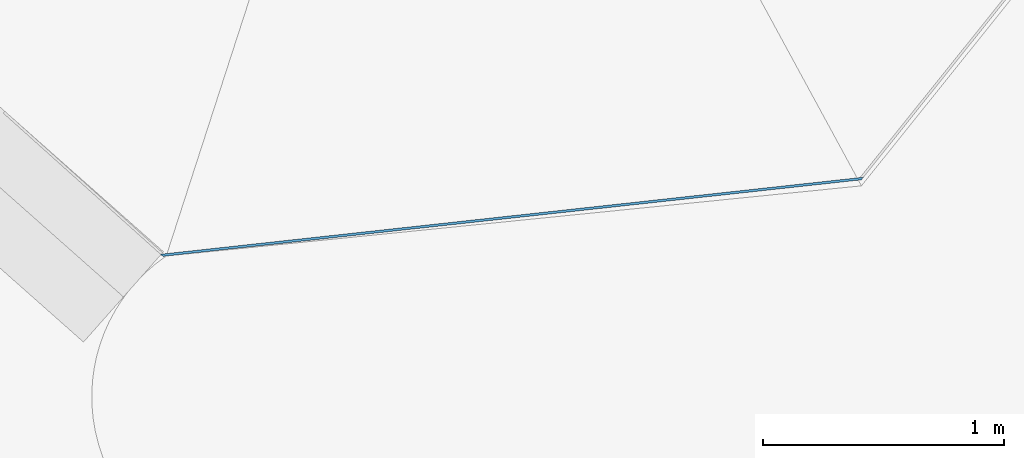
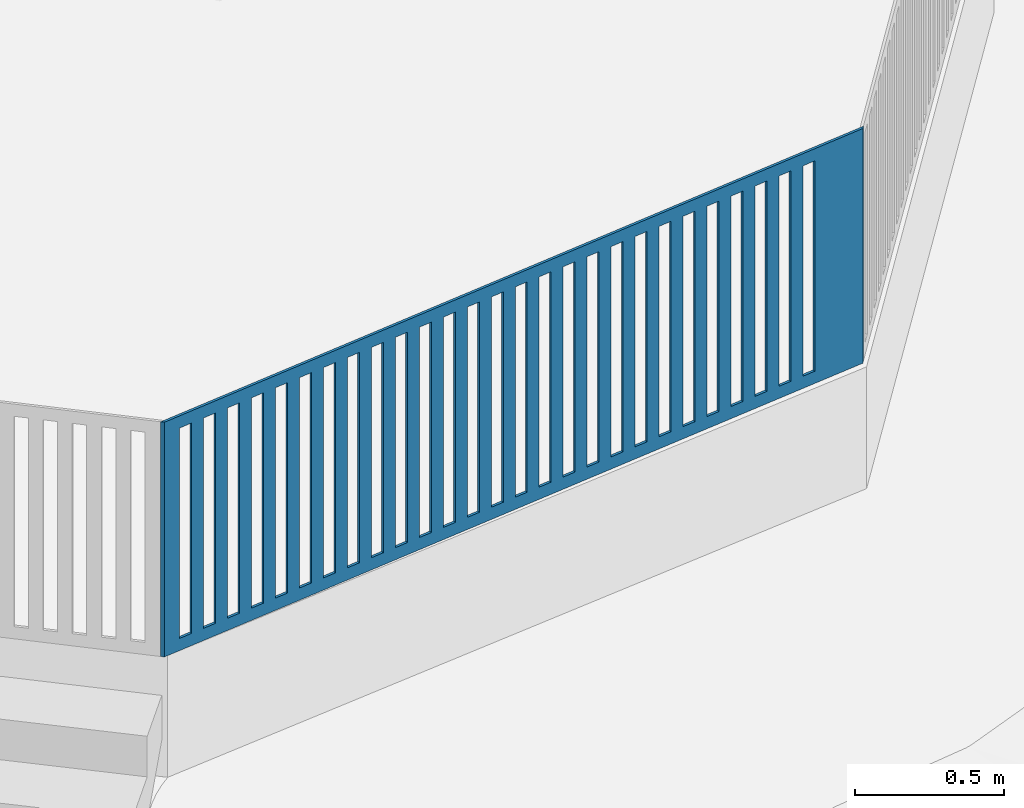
# One storey, part 27 of 75: 1 wall, 27 openings.
"""IFC2X3 building model written with IfcOpenShell, lengths in metres."""

from ifc_helpers import new_model, entity, si_unit, converted_unit, derived_unit, direction, frame, frame_2d, origin, place, context, subcontext, project, spatial, polyline, rectangle, outline, extrude, material, layer, layer_set, layer_usage, type_object, element, save


model = new_model("IFC2X3")

# Units and contexts
model_context = context("Model", 3, precision=1e-05, world=origin(), true_north=direction((6.123031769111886e-17, 1.0)))
body_context = subcontext(model_context, "Body", "Model", "MODEL_VIEW")
ifc_project = project(units=[si_unit("LENGTHUNIT", "METRE"), si_unit("AREAUNIT", "SQUARE_METRE"), si_unit("VOLUMEUNIT", "CUBIC_METRE"), converted_unit("PLANEANGLEUNIT", "DEGREE", entity("IfcRatioMeasure", 0.017453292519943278), si_unit("PLANEANGLEUNIT", "RADIAN"), dimensions=[0, 0, 0, 0, 0, 0, 0]), si_unit("MASSUNIT", "GRAM", prefix="KILO"), derived_unit("MASSDENSITYUNIT", [(si_unit("MASSUNIT", "GRAM", prefix="KILO"), 1), (si_unit("LENGTHUNIT", "METRE"), -3)]), derived_unit("IONCONCENTRATIONUNIT", [(si_unit("MASSUNIT", "GRAM", prefix="KILO"), 1), (si_unit("LENGTHUNIT", "METRE"), -3)]), derived_unit("MOMENTOFINERTIAUNIT", [(si_unit("LENGTHUNIT", "METRE"), 4)]), si_unit("TIMEUNIT", "SECOND"), si_unit("FREQUENCYUNIT", "HERTZ"), si_unit("THERMODYNAMICTEMPERATUREUNIT", "DEGREE_CELSIUS"), derived_unit("THERMALTRANSMITTANCEUNIT", [(si_unit("MASSUNIT", "GRAM", prefix="KILO"), 1), (si_unit("THERMODYNAMICTEMPERATUREUNIT", "KELVIN"), -1), (si_unit("TIMEUNIT", "SECOND"), -3)]), derived_unit("THERMALCONDUCTANCEUNIT", [(si_unit("MASSUNIT", "GRAM", prefix="KILO"), 1), (si_unit("THERMODYNAMICTEMPERATUREUNIT", "KELVIN"), -1), (si_unit("TIMEUNIT", "SECOND"), -3), (si_unit("LENGTHUNIT", "METRE"), 1)]), derived_unit("VOLUMETRICFLOWRATEUNIT", [(si_unit("LENGTHUNIT", "METRE"), 3), (si_unit("TIMEUNIT", "SECOND"), -1)]), derived_unit("MASSFLOWRATEUNIT", [(si_unit("MASSUNIT", "GRAM", prefix="KILO"), 1), (si_unit("TIMEUNIT", "SECOND"), -1)]), derived_unit("ROTATIONALFREQUENCYUNIT", [(si_unit("TIMEUNIT", "SECOND"), -1)]), si_unit("ELECTRICCURRENTUNIT", "AMPERE"), si_unit("ELECTRICVOLTAGEUNIT", "VOLT"), si_unit("POWERUNIT", "WATT"), si_unit("FORCEUNIT", "NEWTON", prefix="KILO"), si_unit("ILLUMINANCEUNIT", "LUX"), si_unit("LUMINOUSFLUXUNIT", "LUMEN"), si_unit("LUMINOUSINTENSITYUNIT", "CANDELA"), derived_unit("USERDEFINED", [(si_unit("MASSUNIT", "GRAM", prefix="KILO"), -1), (si_unit("LENGTHUNIT", "METRE"), -2), (si_unit("TIMEUNIT", "SECOND"), 3), (si_unit("LUMINOUSFLUXUNIT", "LUMEN"), 1)]), derived_unit("USERDEFINED", [(si_unit("MASSUNIT", "GRAM", prefix="KILO"), 1), (si_unit("TIMEUNIT", "SECOND"), -3), (si_unit("LENGTHUNIT", "METRE"), 3), (si_unit("ELECTRICCURRENTUNIT", "AMPERE"), -2)]), derived_unit("SOUNDPOWERUNIT", [(si_unit("MASSUNIT", "GRAM", prefix="KILO"), 1), (si_unit("TIMEUNIT", "SECOND"), -3), (si_unit("LENGTHUNIT", "METRE"), 2)]), derived_unit("SOUNDPRESSUREUNIT", [(si_unit("MASSUNIT", "GRAM", prefix="KILO"), 1), (si_unit("LENGTHUNIT", "METRE"), -1), (si_unit("TIMEUNIT", "SECOND"), -2)]), derived_unit("LINEARVELOCITYUNIT", [(si_unit("LENGTHUNIT", "METRE"), 1), (si_unit("TIMEUNIT", "SECOND"), -1)]), si_unit("PRESSUREUNIT", "PASCAL"), derived_unit("USERDEFINED", [(si_unit("MASSUNIT", "GRAM", prefix="KILO"), 1), (si_unit("LENGTHUNIT", "METRE"), -2), (si_unit("TIMEUNIT", "SECOND"), -2)]), derived_unit("LINEARFORCEUNIT", [(si_unit("MASSUNIT", "GRAM", prefix="KILO"), 1), (si_unit("TIMEUNIT", "SECOND"), -2)]), derived_unit("PLANARFORCEUNIT", [(si_unit("MASSUNIT", "GRAM", prefix="KILO"), 1), (si_unit("LENGTHUNIT", "METRE"), -1), (si_unit("TIMEUNIT", "SECOND"), -2)]), derived_unit("SPECIFICHEATCAPACITYUNIT", [(si_unit("THERMODYNAMICTEMPERATUREUNIT", "KELVIN"), -1), (si_unit("LENGTHUNIT", "METRE"), 2), (si_unit("TIMEUNIT", "SECOND"), -2)]), derived_unit("HEATINGVALUEUNIT", [(si_unit("LENGTHUNIT", "METRE"), 2), (si_unit("TIMEUNIT", "SECOND"), -2)]), derived_unit("VAPORPERMEABILITYUNIT", [(si_unit("LENGTHUNIT", "METRE"), -1), (si_unit("TIMEUNIT", "SECOND"), 1)]), derived_unit("DYNAMICVISCOSITYUNIT", [(si_unit("MASSUNIT", "GRAM", prefix="KILO"), 1), (si_unit("TIMEUNIT", "SECOND"), -1), (si_unit("LENGTHUNIT", "METRE"), -1)]), derived_unit("THERMALEXPANSIONCOEFFICIENTUNIT", [(si_unit("THERMODYNAMICTEMPERATUREUNIT", "KELVIN"), -1)]), derived_unit("MODULUSOFELASTICITYUNIT", [(si_unit("MASSUNIT", "GRAM", prefix="KILO"), 1), (si_unit("LENGTHUNIT", "METRE"), -1), (si_unit("TIMEUNIT", "SECOND"), -2)]), derived_unit("ISOTHERMALMOISTURECAPACITYUNIT", [(si_unit("LENGTHUNIT", "METRE"), 3), (si_unit("MASSUNIT", "GRAM", prefix="KILO"), -1)]), derived_unit("MOISTUREDIFFUSIVITYUNIT", [(si_unit("TIMEUNIT", "SECOND"), -1), (si_unit("LENGTHUNIT", "METRE"), 2)])], contexts=[model_context])

# Site, building, storey
site_placement = place(None, origin())
site = spatial("IfcSite", under=ifc_project, at=site_placement, Name="Default", CompositionType="ELEMENT")
building_placement = place(site_placement, origin())
building = spatial("IfcBuilding", under=site, at=building_placement, Name="Projeto", CompositionType="ELEMENT")
storey_placement = place(building_placement, origin())
storey = spatial("IfcBuildingStorey", under=building, at=storey_placement, Name="Nível 1", CompositionType="ELEMENT", Elevation=0.0)

# Wall, openings
ifc_material = material(Name=".ARQ.PIS - CONTRAPISO.ARMADO")
ifc_layer = layer(ifc_material, 0.01)
ifc_layer_set = layer_set([ifc_layer], Name="Parede básica:15cm 2")
ifc_layer_usage = layer_usage(ifc_layer_set, "AXIS2", "POSITIVE", -0.005000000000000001)
wall_type = type_object("IfcWallType", Name="Parede básica:15cm 2", PredefinedType="STANDARD", material=ifc_layer_set)
wall_placement = place(storey_placement, frame((18.880444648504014, 28.050540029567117, -2.1), z_axis=(0.0, 0.0, 1.0), x_axis=(0.994049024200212, 0.10893363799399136, 0.0)))
wall = element("IfcWallStandardCase", 1, at=wall_placement, inside=storey, type_object=wall_type, material=ifc_layer_usage, Name="Parede básica:15cm 2", ObjectType="Parede básica:15cm 2", context=body_context, shape_type="SweptSolid", body=[
    extrude(outline(polyline([(1.0248651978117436, -1.035048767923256), (1.0390021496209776, -1.0350487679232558), (1.0290094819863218, -1.0250487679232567), (-1.0243851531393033, 1.0298525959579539), (-1.0338749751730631, 1.0393493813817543), (-1.034616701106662, 1.0259443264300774), (1.0248651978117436, -1.035048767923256)])), frame((1.4659923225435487, 0.0016666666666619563, 0.0), z_axis=(0.0, 0.0, 1.0), x_axis=(0.7068474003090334, 0.707366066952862, 0.0)), (0.0, 0.0, 1.0), 0.9640099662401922),
])
opening_1_placement = place(storey_placement, frame((18.880444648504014, 28.050540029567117, -2.1), z_axis=(0.0, 0.0, 1.0), x_axis=(0.994049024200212, 0.10893363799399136, 0.0)))
element("IfcOpeningElement", 2, at=opening_1_placement, cuts=wall, Name="Parede básica:15cm 2:1", ObjectType="Opening", context=body_context, shape_type="SweptSolid", body=[
    extrude(rectangle(XDim=0.8640099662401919, YDim=0.04999999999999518, at=frame_2d((-2.39044894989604e-15, -2.7755575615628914e-16), x_axis=(0.0, 1.0))), frame((0.09757399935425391, -0.004999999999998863, 0.48200498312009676), z_axis=(0.0, 1.0, 0.0), x_axis=(-1.0, 0.0, 0.0)), (0.0, 0.0, 1.0), 0.010000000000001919),
])
opening_2_placement = place(storey_placement, frame((18.880444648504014, 28.050540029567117, -2.1), z_axis=(0.0, 0.0, 1.0), x_axis=(0.994049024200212, 0.10893363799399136, 0.0)))
element("IfcOpeningElement", 3, at=opening_2_placement, cuts=wall, Name="Parede básica:15cm 2:2", ObjectType="Opening", context=body_context, shape_type="SweptSolid", body=[
    extrude(rectangle(XDim=0.8640099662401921, YDim=0.05000000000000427, at=frame_2d((0.0, 1.3877787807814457e-16), x_axis=(0.0, 1.0))), frame((0.19757399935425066, -0.004999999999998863, 0.48200498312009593), z_axis=(0.0, 1.0, 0.0), x_axis=(-1.0, 0.0, 0.0)), (0.0, 0.0, 1.0), 0.010000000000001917),
])
opening_3_placement = place(storey_placement, frame((18.880444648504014, 28.050540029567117, -2.1), z_axis=(0.0, 0.0, 1.0), x_axis=(0.994049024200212, 0.10893363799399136, 0.0)))
element("IfcOpeningElement", 4, at=opening_3_placement, cuts=wall, Name="Parede básica:15cm 2:3", ObjectType="Opening", context=body_context, shape_type="SweptSolid", body=[
    extrude(rectangle(XDim=0.8640099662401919, YDim=0.04999999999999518, at=frame_2d((-2.3592239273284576e-16, 0.0), x_axis=(0.0, 1.0))), frame((0.2975739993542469, -0.005000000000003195, 0.48200498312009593), z_axis=(0.0, 1.0, 0.0), x_axis=(-1.0, 0.0, 0.0)), (0.0, 0.0, 1.0), 0.010000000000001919),
])
opening_4_placement = place(storey_placement, frame((18.880444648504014, 28.050540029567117, -2.1), z_axis=(0.0, 0.0, 1.0), x_axis=(0.994049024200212, 0.10893363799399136, 0.0)))
element("IfcOpeningElement", 5, at=opening_4_placement, cuts=wall, Name="Parede básica:15cm 2:4", ObjectType="Opening", context=body_context, shape_type="SweptSolid", body=[
    extrude(rectangle(XDim=0.8640099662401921, YDim=0.04999999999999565, at=frame_2d((0.0, -1.3877787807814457e-16), x_axis=(0.0, 1.0))), frame((0.39757399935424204, -0.004999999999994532, 0.48200498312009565), z_axis=(0.0, 1.0, 0.0), x_axis=(-1.0, 0.0, 0.0)), (0.0, 0.0, 1.0), 0.010000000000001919),
])
opening_5_placement = place(storey_placement, frame((18.880444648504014, 28.050540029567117, -2.1), z_axis=(0.0, 0.0, 1.0), x_axis=(0.994049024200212, 0.10893363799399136, 0.0)))
element("IfcOpeningElement", 6, at=opening_5_placement, cuts=wall, Name="Parede básica:15cm 2:5", ObjectType="Opening", context=body_context, shape_type="SweptSolid", body=[
    extrude(rectangle(XDim=0.8640099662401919, YDim=0.04999999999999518, at=frame_2d((-2.3592239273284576e-16, 2.7755575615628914e-16), x_axis=(0.0, 1.0))), frame((0.4975739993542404, -0.004999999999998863, 0.48200498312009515), z_axis=(0.0, 1.0, 0.0), x_axis=(-1.0, 0.0, 0.0)), (0.0, 0.0, 1.0), 0.010000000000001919),
])
opening_6_placement = place(storey_placement, frame((18.880444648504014, 28.050540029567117, -2.1), z_axis=(0.0, 0.0, 1.0), x_axis=(0.994049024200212, 0.10893363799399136, 0.0)))
element("IfcOpeningElement", 7, at=opening_6_placement, cuts=wall, Name="Parede básica:15cm 2:6", ObjectType="Opening", context=body_context, shape_type="SweptSolid", body=[
    extrude(rectangle(XDim=0.8640099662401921, YDim=0.04999999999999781, at=frame_2d((0.0, 1.3877787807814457e-16), x_axis=(0.0, 1.0))), frame((0.5975739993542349, -0.004999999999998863, 0.4820049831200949), z_axis=(0.0, 1.0, 0.0), x_axis=(-1.0, 0.0, 0.0)), (0.0, 0.0, 1.0), 0.010000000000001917),
])
opening_7_placement = place(storey_placement, frame((18.880444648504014, 28.050540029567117, -2.1), z_axis=(0.0, 0.0, 1.0), x_axis=(0.994049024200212, 0.10893363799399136, 0.0)))
element("IfcOpeningElement", 8, at=opening_7_placement, cuts=wall, Name="Parede básica:15cm 2:7", ObjectType="Opening", context=body_context, shape_type="SweptSolid", body=[
    extrude(rectangle(XDim=0.8640099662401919, YDim=0.04999999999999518, at=frame_2d((-2.3592239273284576e-16, 0.0), x_axis=(0.0, 1.0))), frame((0.6975739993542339, -0.004999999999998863, 0.4820049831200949), z_axis=(0.0, 1.0, 0.0), x_axis=(-1.0, 0.0, 0.0)), (0.0, 0.0, 1.0), 0.010000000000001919),
])
opening_8_placement = place(storey_placement, frame((18.880444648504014, 28.050540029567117, -2.1), z_axis=(0.0, 0.0, 1.0), x_axis=(0.994049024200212, 0.10893363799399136, 0.0)))
element("IfcOpeningElement", 9, at=opening_8_placement, cuts=wall, Name="Parede básica:15cm 2:8", ObjectType="Opening", context=body_context, shape_type="SweptSolid", body=[
    extrude(rectangle(XDim=0.8640099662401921, YDim=0.04999999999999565, at=frame_2d((0.0, -1.3877787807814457e-16), x_axis=(0.0, 1.0))), frame((0.7975739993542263, -0.004999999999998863, 0.4820049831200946), z_axis=(0.0, 1.0, 0.0), x_axis=(-1.0, 0.0, 0.0)), (0.0, 0.0, 1.0), 0.010000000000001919),
])
opening_9_placement = place(storey_placement, frame((18.880444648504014, 28.050540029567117, -2.1), z_axis=(0.0, 0.0, 1.0), x_axis=(0.994049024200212, 0.10893363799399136, 0.0)))
element("IfcOpeningElement", 10, at=opening_9_placement, cuts=wall, Name="Parede básica:15cm 2:9", ObjectType="Opening", context=body_context, shape_type="SweptSolid", body=[
    extrude(rectangle(XDim=0.8640099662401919, YDim=0.04999999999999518, at=frame_2d((2.3592239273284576e-16, -2.7755575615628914e-16), x_axis=(0.0, 1.0))), frame((0.8975739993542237, -0.004999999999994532, 0.4820049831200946), z_axis=(0.0, 1.0, 0.0), x_axis=(-1.0, 0.0, 0.0)), (0.0, 0.0, 1.0), 0.010000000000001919),
])
opening_10_placement = place(storey_placement, frame((18.880444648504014, 28.050540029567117, -2.1), z_axis=(0.0, 0.0, 1.0), x_axis=(0.994049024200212, 0.10893363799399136, 0.0)))
element("IfcOpeningElement", 11, at=opening_10_placement, cuts=wall, Name="Parede básica:15cm 2:10", ObjectType="Opening", context=body_context, shape_type="SweptSolid", body=[
    extrude(rectangle(XDim=0.8640099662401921, YDim=0.04999999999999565, at=frame_2d((0.0, -1.3877787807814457e-16), x_axis=(0.0, 1.0))), frame((0.9975739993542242, -0.004999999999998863, 0.4820049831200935), z_axis=(0.0, 1.0, 0.0), x_axis=(-1.0, 0.0, 0.0)), (0.0, 0.0, 1.0), 0.010000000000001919),
])
opening_11_placement = place(storey_placement, frame((18.880444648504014, 28.050540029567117, -2.1), z_axis=(0.0, 0.0, 1.0), x_axis=(0.994049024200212, 0.10893363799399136, 0.0)))
element("IfcOpeningElement", 12, at=opening_11_placement, cuts=wall, Name="Parede básica:15cm 2:11", ObjectType="Opening", context=body_context, shape_type="SweptSolid", body=[
    extrude(rectangle(XDim=0.8640099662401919, YDim=0.05000000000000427, at=frame_2d((0.0, 2.7755575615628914e-16), x_axis=(0.0, 1.0))), frame((1.097573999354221, -0.004999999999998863, 0.482004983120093), z_axis=(0.0, 1.0, 0.0), x_axis=(-1.0, 0.0, 0.0)), (0.0, 0.0, 1.0), 0.010000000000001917),
])
opening_12_placement = place(storey_placement, frame((18.880444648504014, 28.050540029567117, -2.1), z_axis=(0.0, 0.0, 1.0), x_axis=(0.994049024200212, 0.10893363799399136, 0.0)))
element("IfcOpeningElement", 13, at=opening_12_placement, cuts=wall, Name="Parede básica:15cm 2:12", ObjectType="Opening", context=body_context, shape_type="SweptSolid", body=[
    extrude(rectangle(XDim=0.8640099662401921, YDim=0.04999999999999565, at=frame_2d((0.0, 1.3877787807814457e-16), x_axis=(0.0, 1.0))), frame((1.1975739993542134, -0.004999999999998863, 0.4820049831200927), z_axis=(0.0, 1.0, 0.0), x_axis=(-1.0, 0.0, 0.0)), (0.0, 0.0, 1.0), 0.010000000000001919),
])
opening_13_placement = place(storey_placement, frame((18.880444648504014, 28.050540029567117, -2.1), z_axis=(0.0, 0.0, 1.0), x_axis=(0.994049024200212, 0.10893363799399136, 0.0)))
element("IfcOpeningElement", 14, at=opening_13_placement, cuts=wall, Name="Parede básica:15cm 2:13", ObjectType="Opening", context=body_context, shape_type="SweptSolid", body=[
    extrude(rectangle(XDim=0.8640099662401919, YDim=0.04999999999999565, at=frame_2d((0.0, 0.0), x_axis=(0.0, 1.0))), frame((1.2975739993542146, -0.004999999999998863, 0.4820049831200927), z_axis=(0.0, 1.0, 0.0), x_axis=(-1.0, 0.0, 0.0)), (0.0, 0.0, 1.0), 0.010000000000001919),
])
opening_14_placement = place(storey_placement, frame((18.880444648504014, 28.050540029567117, -2.1), z_axis=(0.0, 0.0, 1.0), x_axis=(0.994049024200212, 0.10893363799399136, 0.0)))
element("IfcOpeningElement", 15, at=opening_14_placement, cuts=wall, Name="Parede básica:15cm 2:14", ObjectType="Opening", context=body_context, shape_type="SweptSolid", body=[
    extrude(rectangle(XDim=0.8640099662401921, YDim=0.04999999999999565, at=frame_2d((0.0, -1.3877787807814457e-16), x_axis=(0.0, 1.0))), frame((1.397573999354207, -0.004999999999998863, 0.48200498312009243), z_axis=(0.0, 1.0, 0.0), x_axis=(-1.0, 0.0, 0.0)), (0.0, 0.0, 1.0), 0.010000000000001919),
])
opening_15_placement = place(storey_placement, frame((18.880444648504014, 28.050540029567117, -2.1), z_axis=(0.0, 0.0, 1.0), x_axis=(0.994049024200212, 0.10893363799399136, 0.0)))
element("IfcOpeningElement", 16, at=opening_15_placement, cuts=wall, Name="Parede básica:15cm 2:15", ObjectType="Opening", context=body_context, shape_type="SweptSolid", body=[
    extrude(rectangle(XDim=0.8640099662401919, YDim=0.04999999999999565, at=frame_2d((0.0, -2.7755575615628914e-16), x_axis=(0.0, 1.0))), frame((1.497573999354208, -0.004999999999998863, 0.48200498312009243), z_axis=(0.0, 1.0, 0.0), x_axis=(-1.0, 0.0, 0.0)), (0.0, 0.0, 1.0), 0.010000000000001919),
])
opening_16_placement = place(storey_placement, frame((18.880444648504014, 28.050540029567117, -2.1), z_axis=(0.0, 0.0, 1.0), x_axis=(0.994049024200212, 0.10893363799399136, 0.0)))
element("IfcOpeningElement", 17, at=opening_16_placement, cuts=wall, Name="Parede básica:15cm 2:16", ObjectType="Opening", context=body_context, shape_type="SweptSolid", body=[
    extrude(rectangle(XDim=0.8640099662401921, YDim=0.05000000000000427, at=frame_2d((0.0, 1.3877787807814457e-16), x_axis=(0.0, 1.0))), frame((1.5975739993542, -0.005000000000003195, 0.4820049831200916), z_axis=(0.0, 1.0, 0.0), x_axis=(-1.0, 0.0, 0.0)), (0.0, 0.0, 1.0), 0.010000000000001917),
])
opening_17_placement = place(storey_placement, frame((18.880444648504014, 28.050540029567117, -2.1), z_axis=(0.0, 0.0, 1.0), x_axis=(0.994049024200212, 0.10893363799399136, 0.0)))
element("IfcOpeningElement", 18, at=opening_17_placement, cuts=wall, Name="Parede básica:15cm 2:17", ObjectType="Opening", context=body_context, shape_type="SweptSolid", body=[
    extrude(rectangle(XDim=0.8640099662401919, YDim=0.04999999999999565, at=frame_2d((0.0, 0.0), x_axis=(0.0, 1.0))), frame((1.6975739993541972, -0.004999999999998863, 0.4820049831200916), z_axis=(0.0, 1.0, 0.0), x_axis=(-1.0, 0.0, 0.0)), (0.0, 0.0, 1.0), 0.010000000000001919),
])
opening_18_placement = place(storey_placement, frame((18.880444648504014, 28.050540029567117, -2.1), z_axis=(0.0, 0.0, 1.0), x_axis=(0.994049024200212, 0.10893363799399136, 0.0)))
element("IfcOpeningElement", 19, at=opening_18_placement, cuts=wall, Name="Parede básica:15cm 2:18", ObjectType="Opening", context=body_context, shape_type="SweptSolid", body=[
    extrude(rectangle(XDim=0.8640099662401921, YDim=0.04999999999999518, at=frame_2d((2.3592239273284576e-16, -1.3877787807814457e-16), x_axis=(0.0, 1.0))), frame((1.7975739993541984, -0.004999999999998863, 0.4820049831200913), z_axis=(0.0, 1.0, 0.0), x_axis=(-1.0, 0.0, 0.0)), (0.0, 0.0, 1.0), 0.010000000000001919),
])
opening_19_placement = place(storey_placement, frame((18.880444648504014, 28.050540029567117, -2.1), z_axis=(0.0, 0.0, 1.0), x_axis=(0.994049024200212, 0.10893363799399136, 0.0)))
element("IfcOpeningElement", 20, at=opening_19_placement, cuts=wall, Name="Parede básica:15cm 2:19", ObjectType="Opening", context=body_context, shape_type="SweptSolid", body=[
    extrude(rectangle(XDim=0.8640099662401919, YDim=0.04999999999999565, at=frame_2d((0.0, 0.0), x_axis=(0.0, 1.0))), frame((1.8975739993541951, -0.004999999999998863, 0.48200498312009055), z_axis=(0.0, 1.0, 0.0), x_axis=(-1.0, 0.0, 0.0)), (0.0, 0.0, 1.0), 0.010000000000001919),
])
opening_20_placement = place(storey_placement, frame((18.880444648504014, 28.050540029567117, -2.1), z_axis=(0.0, 0.0, 1.0), x_axis=(0.994049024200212, 0.10893363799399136, 0.0)))
element("IfcOpeningElement", 21, at=opening_20_placement, cuts=wall, Name="Parede básica:15cm 2:20", ObjectType="Opening", context=body_context, shape_type="SweptSolid", body=[
    extrude(rectangle(XDim=0.8640099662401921, YDim=0.05000000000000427, at=frame_2d((0.0, -1.3877787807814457e-16), x_axis=(0.0, 1.0))), frame((1.9975739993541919, -0.004999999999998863, 0.48200498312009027), z_axis=(0.0, 1.0, 0.0), x_axis=(-1.0, 0.0, 0.0)), (0.0, 0.0, 1.0), 0.010000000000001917),
])
opening_21_placement = place(storey_placement, frame((18.880444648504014, 28.050540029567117, -2.1), z_axis=(0.0, 0.0, 1.0), x_axis=(0.994049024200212, 0.10893363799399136, 0.0)))
element("IfcOpeningElement", 22, at=opening_21_placement, cuts=wall, Name="Parede básica:15cm 2:21", ObjectType="Opening", context=body_context, shape_type="SweptSolid", body=[
    extrude(rectangle(XDim=0.8640099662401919, YDim=0.04999999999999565, at=frame_2d((0.0, -2.7755575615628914e-16), x_axis=(0.0, 1.0))), frame((2.097573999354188, -0.005000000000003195, 0.48200498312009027), z_axis=(0.0, 1.0, 0.0), x_axis=(-1.0, 0.0, 0.0)), (0.0, 0.0, 1.0), 0.010000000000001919),
])
opening_22_placement = place(storey_placement, frame((18.880444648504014, 28.050540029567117, -2.1), z_axis=(0.0, 0.0, 1.0), x_axis=(0.994049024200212, 0.10893363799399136, 0.0)))
element("IfcOpeningElement", 23, at=opening_22_placement, cuts=wall, Name="Parede básica:15cm 2:22", ObjectType="Opening", context=body_context, shape_type="SweptSolid", body=[
    extrude(rectangle(XDim=0.8640099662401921, YDim=0.04999999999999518, at=frame_2d((-2.3592239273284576e-16, 1.3877787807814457e-16), x_axis=(0.0, 1.0))), frame((2.197573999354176, -0.005000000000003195, 0.48200498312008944), z_axis=(0.0, 1.0, 0.0), x_axis=(-1.0, 0.0, 0.0)), (0.0, 0.0, 1.0), 0.010000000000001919),
])
opening_23_placement = place(storey_placement, frame((18.880444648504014, 28.050540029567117, -2.1), z_axis=(0.0, 0.0, 1.0), x_axis=(0.994049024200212, 0.10893363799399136, 0.0)))
element("IfcOpeningElement", 24, at=opening_23_placement, cuts=wall, Name="Parede básica:15cm 2:23", ObjectType="Opening", context=body_context, shape_type="SweptSolid", body=[
    extrude(rectangle(XDim=0.8640099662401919, YDim=0.04999999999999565, at=frame_2d((0.0, 0.0), x_axis=(0.0, 1.0))), frame((2.297573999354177, -0.005000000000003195, 0.48200498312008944), z_axis=(0.0, 1.0, 0.0), x_axis=(-1.0, 0.0, 0.0)), (0.0, 0.0, 1.0), 0.010000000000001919),
])
opening_24_placement = place(storey_placement, frame((18.880444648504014, 28.050540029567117, -2.1), z_axis=(0.0, 0.0, 1.0), x_axis=(0.994049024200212, 0.10893363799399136, 0.0)))
element("IfcOpeningElement", 25, at=opening_24_placement, cuts=wall, Name="Parede básica:15cm 2:24", ObjectType="Opening", context=body_context, shape_type="SweptSolid", body=[
    extrude(rectangle(XDim=0.8640099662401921, YDim=0.04999999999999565, at=frame_2d((0.0, -1.3877787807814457e-16), x_axis=(0.0, 1.0))), frame((2.397573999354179, -0.004999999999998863, 0.48200498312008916), z_axis=(0.0, 1.0, 0.0), x_axis=(-1.0, 0.0, 0.0)), (0.0, 0.0, 1.0), 0.010000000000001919),
])
opening_25_placement = place(storey_placement, frame((18.880444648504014, 28.050540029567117, -2.1), z_axis=(0.0, 0.0, 1.0), x_axis=(0.994049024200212, 0.10893363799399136, 0.0)))
element("IfcOpeningElement", 26, at=opening_25_placement, cuts=wall, Name="Parede básica:15cm 2:25", ObjectType="Opening", context=body_context, shape_type="SweptSolid", body=[
    extrude(rectangle(XDim=0.8640099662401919, YDim=0.05000000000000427, at=frame_2d((0.0, 2.7755575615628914e-16), x_axis=(0.0, 1.0))), frame((2.4975739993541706, -0.004999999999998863, 0.48200498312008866), z_axis=(0.0, 1.0, 0.0), x_axis=(-1.0, 0.0, 0.0)), (0.0, 0.0, 1.0), 0.010000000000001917),
])
opening_26_placement = place(storey_placement, frame((18.880444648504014, 28.050540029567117, -2.1), z_axis=(0.0, 0.0, 1.0), x_axis=(0.994049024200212, 0.10893363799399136, 0.0)))
element("IfcOpeningElement", 27, at=opening_26_placement, cuts=wall, Name="Parede básica:15cm 2:26", ObjectType="Opening", context=body_context, shape_type="SweptSolid", body=[
    extrude(rectangle(XDim=0.8640099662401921, YDim=0.04999999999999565, at=frame_2d((0.0, 1.3877787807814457e-16), x_axis=(0.0, 1.0))), frame((2.5975739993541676, -0.004999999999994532, 0.4820049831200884), z_axis=(0.0, 1.0, 0.0), x_axis=(-1.0, 0.0, 0.0)), (0.0, 0.0, 1.0), 0.010000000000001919),
])
opening_27_placement = place(storey_placement, frame((18.880444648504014, 28.050540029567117, -2.1), z_axis=(0.0, 0.0, 1.0), x_axis=(0.994049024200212, 0.10893363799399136, 0.0)))
element("IfcOpeningElement", 28, at=opening_27_placement, cuts=wall, Name="Parede básica:15cm 2:27", ObjectType="Opening", context=body_context, shape_type="SweptSolid", body=[
    extrude(rectangle(XDim=0.8640099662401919, YDim=0.04999999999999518, at=frame_2d((2.3592239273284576e-16, 0.0), x_axis=(0.0, 1.0))), frame((2.697573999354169, -0.004999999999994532, 0.4820049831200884), z_axis=(0.0, 1.0, 0.0), x_axis=(-1.0, 0.0, 0.0)), (0.0, 0.0, 1.0), 0.010000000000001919),
])

save(model, "model.ifc")
